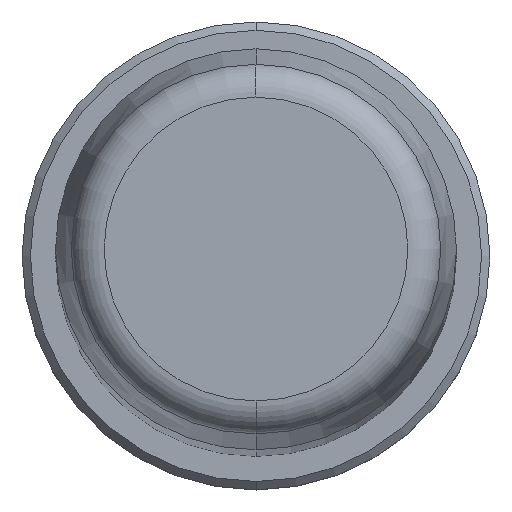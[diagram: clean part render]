
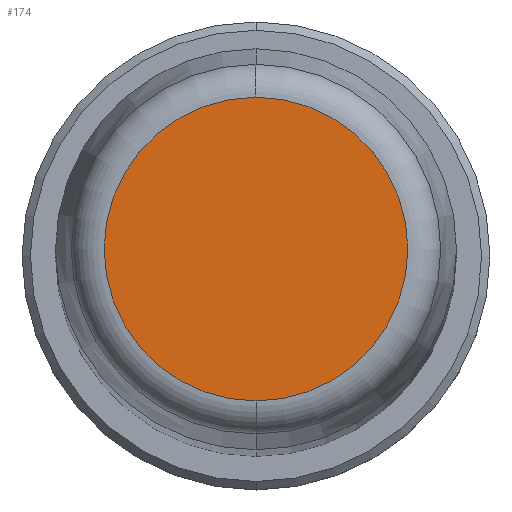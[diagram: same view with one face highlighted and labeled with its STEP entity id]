
A CAD part, top view. The second image highlights one B-rep face of the part: STEP entity #174.
In plain terms, the highlighted planar face has unit normal (0, 0, 1).
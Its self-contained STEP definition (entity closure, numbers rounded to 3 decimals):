
#1=CARTESIAN_POINT('',(0.,0.,240.));
#2=DIRECTION('',(0.,0.,-1.));
#3=DIRECTION('',(0.,-1.,0.));
#4=AXIS2_PLACEMENT_3D('',#1,#2,#3);
#6=CARTESIAN_POINT('',(0.,0.,240.));
#7=DIRECTION('',(0.,0.,-1.));
#8=DIRECTION('',(0.,1.,0.));
#9=AXIS2_PLACEMENT_3D('',#6,#7,#8);
#159=CARTESIAN_POINT('',(0.,-9.088,240.));
#160=CARTESIAN_POINT('',(0.,9.088,240.));
#161=VERTEX_POINT('',#159);
#162=VERTEX_POINT('',#160);
#163=CARTESIAN_POINT('',(0.,0.,240.));
#164=DIRECTION('',(0.,0.,1.));
#165=DIRECTION('',(0.,-1.,0.));
#166=AXIS2_PLACEMENT_3D('',#163,#164,#165);
#167=PLANE('',#166);
#169=ORIENTED_EDGE('',*,*,#168,.T.);
#171=ORIENTED_EDGE('',*,*,#170,.T.);
#172=EDGE_LOOP('',(#169,#171));
#173=FACE_OUTER_BOUND('',#172,.F.);
#174=ADVANCED_FACE('',(#173),#167,.T.);
#5=CIRCLE('',#4,9.088);
#10=CIRCLE('',#9,9.088);
#168=EDGE_CURVE('',#161,#162,#5,.T.);
#170=EDGE_CURVE('',#162,#161,#10,.T.);
